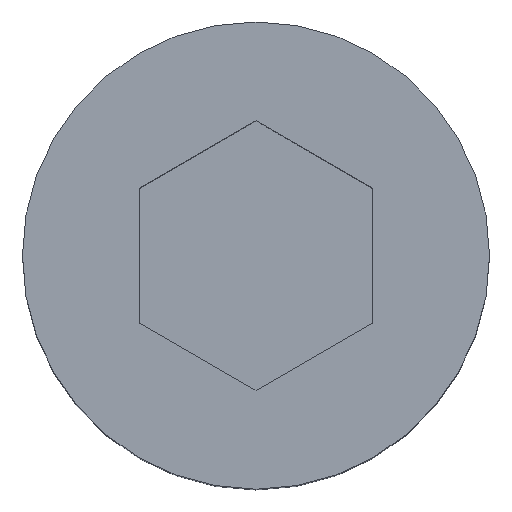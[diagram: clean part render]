
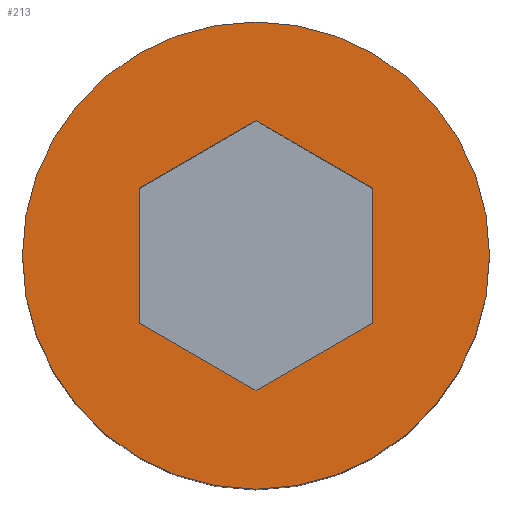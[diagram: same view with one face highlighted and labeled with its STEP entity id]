
A CAD part, top view. The second image highlights one B-rep face of the part: STEP entity #213.
In plain terms, the highlighted planar face has unit normal (0, 0, 1).
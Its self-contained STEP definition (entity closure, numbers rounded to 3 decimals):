
#6 = EDGE_LOOP ( 'NONE', ( #74, #196 ) ) ;
#17 = CARTESIAN_POINT ( 'NONE',  ( 0., -2.887, 20. ) ) ;
#35 = VECTOR ( 'NONE', #510, 1000. ) ;
#38 = CARTESIAN_POINT ( 'NONE',  ( 0., -5., 20. ) ) ;
#45 = CARTESIAN_POINT ( 'NONE',  ( 2.5, 1.443, 20. ) ) ;
#64 = ORIENTED_EDGE ( 'NONE', *, *, #66, .F. ) ;
#66 = EDGE_CURVE ( 'NONE', #529, #487, #352, .T. ) ;
#74 = ORIENTED_EDGE ( 'NONE', *, *, #383, .T. ) ;
#87 = DIRECTION ( 'NONE',  ( 0., 0., 1. ) ) ;
#91 = CARTESIAN_POINT ( 'NONE',  ( -2.5, -1.443, 20. ) ) ;
#104 = DIRECTION ( 'NONE',  ( 0., 0., 1. ) ) ;
#114 = ORIENTED_EDGE ( 'NONE', *, *, #133, .F. ) ;
#117 = ORIENTED_EDGE ( 'NONE', *, *, #484, .F. ) ;
#123 = DIRECTION ( 'NONE',  ( -0.866, -0.5, 0. ) ) ;
#133 = EDGE_CURVE ( 'NONE', #498, #154, #517, .T. ) ;
#138 = DIRECTION ( 'NONE',  ( 0., 1., 0. ) ) ;
#143 = LINE ( 'NONE', #91, #35 ) ;
#154 = VERTEX_POINT ( 'NONE', #355 ) ;
#190 = DIRECTION ( 'NONE',  ( 0.866, 0.5, 0. ) ) ;
#196 = ORIENTED_EDGE ( 'NONE', *, *, #507, .T. ) ;
#202 = CARTESIAN_POINT ( 'NONE',  ( 2.5, -1.443, 20. ) ) ;
#213 = ADVANCED_FACE ( 'NONE', ( #423, #382 ), #505, .F. ) ;
#229 = EDGE_CURVE ( 'NONE', #487, #531, #247, .T. ) ;
#247 = LINE ( 'NONE', #420, #512 ) ;
#275 = VECTOR ( 'NONE', #375, 1000. ) ;
#281 = ORIENTED_EDGE ( 'NONE', *, *, #351, .F. ) ;
#287 = VERTEX_POINT ( 'NONE', #536 ) ;
#301 = CARTESIAN_POINT ( 'NONE',  ( 0., 0., 20. ) ) ;
#302 = ORIENTED_EDGE ( 'NONE', *, *, #533, .F. ) ;
#313 = AXIS2_PLACEMENT_3D ( 'NONE', #368, #104, #360 ) ;
#318 = CARTESIAN_POINT ( 'NONE',  ( 0., -2.887, 20. ) ) ;
#328 = LINE ( 'NONE', #202, #275 ) ;
#330 = AXIS2_PLACEMENT_3D ( 'NONE', #301, #87, #138 ) ;
#343 = EDGE_LOOP ( 'NONE', ( #377, #64, #302, #114, #281, #117 ) ) ;
#351 = EDGE_CURVE ( 'NONE', #367, #498, #143, .T. ) ;
#352 = LINE ( 'NONE', #45, #476 ) ;
#355 = CARTESIAN_POINT ( 'NONE',  ( 2.5, -1.443, 20. ) ) ;
#360 = DIRECTION ( 'NONE',  ( 0., 1., 0. ) ) ;
#364 = DIRECTION ( 'NONE',  ( 0., -1., 0. ) ) ;
#367 = VERTEX_POINT ( 'NONE', #515 ) ;
#368 = CARTESIAN_POINT ( 'NONE',  ( 0., 0., 20. ) ) ;
#375 = DIRECTION ( 'NONE',  ( 0., 1., 0. ) ) ;
#377 = ORIENTED_EDGE ( 'NONE', *, *, #229, .F. ) ;
#378 = VECTOR ( 'NONE', #364, 1000. ) ;
#382 = FACE_OUTER_BOUND ( 'NONE', #6, .T. ) ;
#383 = EDGE_CURVE ( 'NONE', #525, #287, #527, .T. ) ;
#388 = VECTOR ( 'NONE', #190, 1000. ) ;
#395 = DIRECTION ( 'NONE',  ( -0.866, 0.5, 0. ) ) ;
#398 = CARTESIAN_POINT ( 'NONE',  ( 0., 2.887, 20. ) ) ;
#420 = CARTESIAN_POINT ( 'NONE',  ( 0., 2.887, 20. ) ) ;
#423 = FACE_BOUND ( 'NONE', #343, .T. ) ;
#446 = CIRCLE ( 'NONE', #313, 5. ) ;
#451 = LINE ( 'NONE', #523, #378 ) ;
#464 = AXIS2_PLACEMENT_3D ( 'NONE', #38, #497, #539 ) ;
#476 = VECTOR ( 'NONE', #395, 1000. ) ;
#484 = EDGE_CURVE ( 'NONE', #531, #367, #451, .T. ) ;
#487 = VERTEX_POINT ( 'NONE', #398 ) ;
#494 = CARTESIAN_POINT ( 'NONE',  ( -2.5, 1.443, 20. ) ) ;
#497 = DIRECTION ( 'NONE',  ( 0., 0., -1. ) ) ;
#498 = VERTEX_POINT ( 'NONE', #318 ) ;
#505 = PLANE ( 'NONE',  #464 ) ;
#507 = EDGE_CURVE ( 'NONE', #287, #525, #446, .T. ) ;
#510 = DIRECTION ( 'NONE',  ( 0.866, -0.5, 0. ) ) ;
#512 = VECTOR ( 'NONE', #123, 1000. ) ;
#515 = CARTESIAN_POINT ( 'NONE',  ( -2.5, -1.443, 20. ) ) ;
#517 = LINE ( 'NONE', #17, #388 ) ;
#521 = CARTESIAN_POINT ( 'NONE',  ( 0., 5., 20. ) ) ;
#523 = CARTESIAN_POINT ( 'NONE',  ( -2.5, 1.443, 20. ) ) ;
#525 = VERTEX_POINT ( 'NONE', #521 ) ;
#527 = CIRCLE ( 'NONE', #330, 5. ) ;
#529 = VERTEX_POINT ( 'NONE', #532 ) ;
#531 = VERTEX_POINT ( 'NONE', #494 ) ;
#532 = CARTESIAN_POINT ( 'NONE',  ( 2.5, 1.443, 20. ) ) ;
#533 = EDGE_CURVE ( 'NONE', #154, #529, #328, .T. ) ;
#536 = CARTESIAN_POINT ( 'NONE',  ( 0., -5., 20. ) ) ;
#539 = DIRECTION ( 'NONE',  ( 0., -1., 0. ) ) ;
